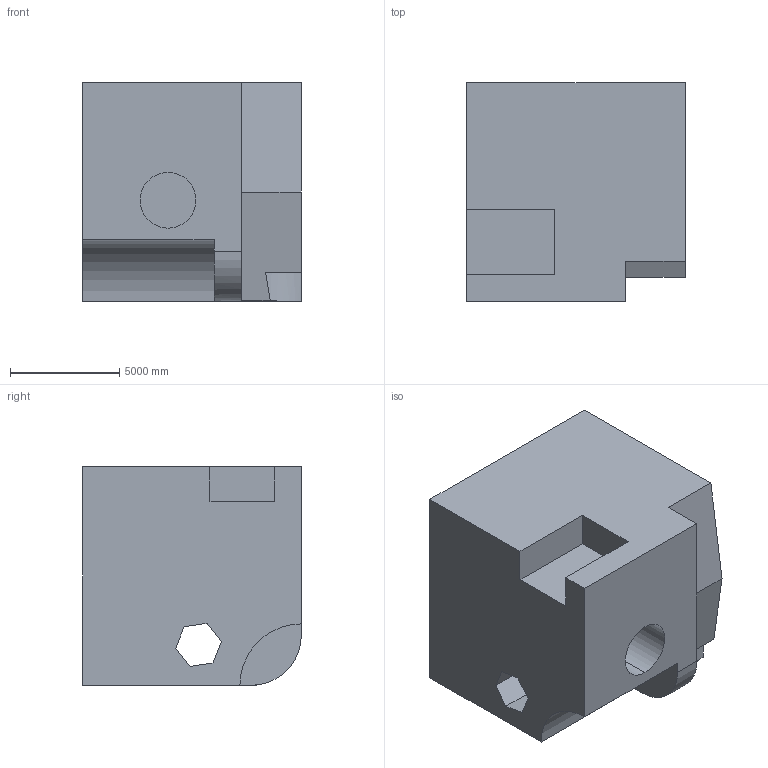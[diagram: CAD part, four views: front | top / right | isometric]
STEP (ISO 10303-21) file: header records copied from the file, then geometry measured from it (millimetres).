
FILE_DESCRIPTION (( 'STEP AP203' ), '1' );
FILE_NAME ('337.STEP', '2022-09-07T12:58:48', ( 'user' ), ( '' ), 'SwSTEP 2.0', 'SolidWorks 2021', '' );
FILE_SCHEMA (( 'CONFIG_CONTROL_DESIGN' ));
Length unit declared in the file: centimetre
Products named in the file (1): 337
Bounding box: 10000 x 10000 x 10000 mm (x, y, z)
Volume: 832462143508.6 mm3; surface area: 711483366.4 mm2
Topology: 1 solids, 1 shells, 27 faces, 72 edges, 48 vertices
Faces by surface type: plane 22, cylinder 5
Entity records: 944 total; most frequent: CARTESIAN_POINT 180, ORIENTED_EDGE 144, DIRECTION 136, EDGE_CURVE 72, VECTOR 60, LINE 60, VERTEX_POINT 48, AXIS2_PLACEMENT_3D 38
